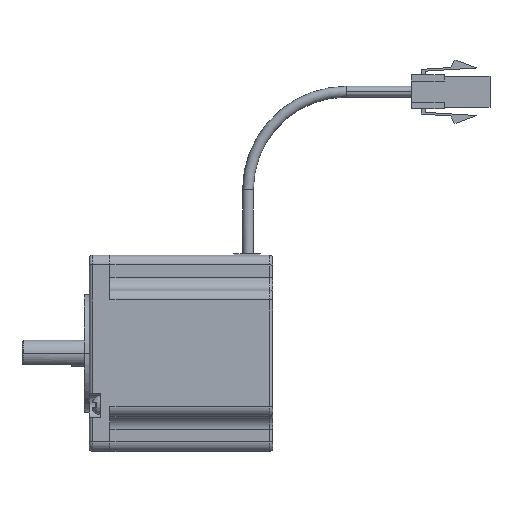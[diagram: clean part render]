
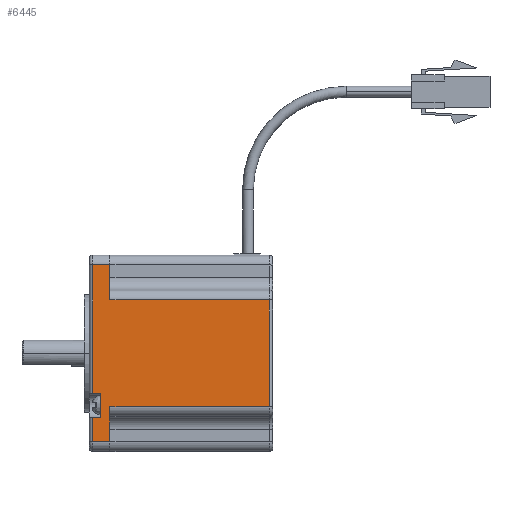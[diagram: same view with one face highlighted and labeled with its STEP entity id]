
A CAD part, top view. The second image highlights one B-rep face of the part: STEP entity #6445.
In plain terms, the highlighted planar face has unit normal (0, 0, 1) as drawn and (1, 0, 0) by its records, which use the part's own axes.
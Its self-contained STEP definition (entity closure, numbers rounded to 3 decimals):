
#124 = VECTOR ( 'NONE', #3071, 1000. ) ;
#129 = VECTOR ( 'NONE', #9084, 1000. ) ;
#282 = CARTESIAN_POINT ( 'NONE',  ( 92.176, 112.692, -205.7 ) ) ;
#423 = EDGE_CURVE ( 'NONE', #4236, #6005, #9193, .T. ) ;
#448 = ORIENTED_EDGE ( 'NONE', *, *, #7666, .T. ) ;
#715 = VECTOR ( 'NONE', #802, 1000. ) ;
#722 = DIRECTION ( 'NONE',  ( 0., 0., -1. ) ) ;
#789 = CARTESIAN_POINT ( 'NONE',  ( 92.176, 69.392, -205.7 ) ) ;
#800 = CARTESIAN_POINT ( 'NONE',  ( 92.176, 69.392, -157. ) ) ;
#802 = DIRECTION ( 'NONE',  ( 0., -1., 0. ) ) ;
#909 = CARTESIAN_POINT ( 'NONE',  ( 92.176, 55.692, -205.7 ) ) ;
#937 = CARTESIAN_POINT ( 'NONE',  ( 92.176, 112.692, -211. ) ) ;
#945 = VECTOR ( 'NONE', #2643, 1000. ) ;
#982 = LINE ( 'NONE', #3527, #5239 ) ;
#1021 = DIRECTION ( 'NONE',  ( 0., 0., -1. ) ) ;
#1081 = VERTEX_POINT ( 'NONE', #1447 ) ;
#1200 = CARTESIAN_POINT ( 'NONE',  ( 92.176, 97.892, -208.5 ) ) ;
#1405 = ORIENTED_EDGE ( 'NONE', *, *, #3659, .T. ) ;
#1447 = CARTESIAN_POINT ( 'NONE',  ( 92.176, 101.992, -157. ) ) ;
#1471 = VECTOR ( 'NONE', #5838, 1000. ) ;
#1484 = ORIENTED_EDGE ( 'NONE', *, *, #5190, .T. ) ;
#1664 = VERTEX_POINT ( 'NONE', #4769 ) ;
#1690 = LINE ( 'NONE', #3092, #124 ) ;
#1812 = LINE ( 'NONE', #2442, #5573 ) ;
#1946 = VERTEX_POINT ( 'NONE', #789 ) ;
#2119 = EDGE_CURVE ( 'NONE', #1946, #1664, #1690, .T. ) ;
#2257 = CARTESIAN_POINT ( 'NONE',  ( 92.176, 55.692, -212. ) ) ;
#2442 = CARTESIAN_POINT ( 'NONE',  ( 92.176, 55.692, -211. ) ) ;
#2643 = DIRECTION ( 'NONE',  ( 0., 0., 1. ) ) ;
#2676 = DIRECTION ( 'NONE',  ( 0., 1., 0. ) ) ;
#2694 = CARTESIAN_POINT ( 'NONE',  ( 92.176, 55.692, -208.5 ) ) ;
#3000 = LINE ( 'NONE', #7119, #945 ) ;
#3067 = AXIS2_PLACEMENT_3D ( 'NONE', #2257, #5259, #722 ) ;
#3071 = DIRECTION ( 'NONE',  ( 0., -1., 0. ) ) ;
#3092 = CARTESIAN_POINT ( 'NONE',  ( 92.176, 55.692, -205.7 ) ) ;
#3179 = DIRECTION ( 'NONE',  ( 0., -1., 0. ) ) ;
#3185 = DIRECTION ( 'NONE',  ( 0., 1., 0. ) ) ;
#3191 = CARTESIAN_POINT ( 'NONE',  ( 92.176, 55.692, -157. ) ) ;
#3295 = EDGE_CURVE ( 'NONE', #1664, #3941, #982, .T. ) ;
#3507 = LINE ( 'NONE', #5769, #1471 ) ;
#3527 = CARTESIAN_POINT ( 'NONE',  ( 92.176, 58.692, -212. ) ) ;
#3577 = DIRECTION ( 'NONE',  ( 0., 0., -1. ) ) ;
#3633 = VECTOR ( 'NONE', #3179, 1000. ) ;
#3659 = EDGE_CURVE ( 'NONE', #6760, #8081, #9350, .T. ) ;
#3690 = ORIENTED_EDGE ( 'NONE', *, *, #4698, .F. ) ;
#3711 = ORIENTED_EDGE ( 'NONE', *, *, #2119, .T. ) ;
#3714 = LINE ( 'NONE', #8504, #5432 ) ;
#3730 = VECTOR ( 'NONE', #6724, 1000. ) ;
#3740 = ORIENTED_EDGE ( 'NONE', *, *, #3295, .T. ) ;
#3791 = ORIENTED_EDGE ( 'NONE', *, *, #6988, .T. ) ;
#3854 = FACE_OUTER_BOUND ( 'NONE', #9378, .T. ) ;
#3941 = VERTEX_POINT ( 'NONE', #4135 ) ;
#3949 = LINE ( 'NONE', #9644, #129 ) ;
#4101 = LINE ( 'NONE', #8902, #6079 ) ;
#4135 = CARTESIAN_POINT ( 'NONE',  ( 92.176, 58.692, -211. ) ) ;
#4236 = VERTEX_POINT ( 'NONE', #1200 ) ;
#4246 = EDGE_CURVE ( 'NONE', #8477, #4978, #6968, .T. ) ;
#4360 = EDGE_CURVE ( 'NONE', #7998, #1946, #3949, .T. ) ;
#4373 = CARTESIAN_POINT ( 'NONE',  ( 92.176, 97.892, -211. ) ) ;
#4698 = EDGE_CURVE ( 'NONE', #1081, #4978, #4101, .T. ) ;
#4769 = CARTESIAN_POINT ( 'NONE',  ( 92.176, 58.692, -205.7 ) ) ;
#4843 = ORIENTED_EDGE ( 'NONE', *, *, #423, .T. ) ;
#4978 = VERTEX_POINT ( 'NONE', #5725 ) ;
#4986 = EDGE_CURVE ( 'NONE', #6343, #4236, #3507, .T. ) ;
#5190 = EDGE_CURVE ( 'NONE', #1081, #7998, #5341, .T. ) ;
#5239 = VECTOR ( 'NONE', #3577, 1000. ) ;
#5259 = DIRECTION ( 'NONE',  ( 1., 0., 0. ) ) ;
#5341 = LINE ( 'NONE', #3191, #3633 ) ;
#5432 = VECTOR ( 'NONE', #1021, 1000. ) ;
#5573 = VECTOR ( 'NONE', #3185, 1000. ) ;
#5725 = CARTESIAN_POINT ( 'NONE',  ( 92.176, 101.992, -205.7 ) ) ;
#5769 = CARTESIAN_POINT ( 'NONE',  ( 92.176, 97.892, -212. ) ) ;
#5809 = ORIENTED_EDGE ( 'NONE', *, *, #4360, .T. ) ;
#5838 = DIRECTION ( 'NONE',  ( 0., 0., 1. ) ) ;
#6005 = VERTEX_POINT ( 'NONE', #6249 ) ;
#6079 = VECTOR ( 'NONE', #8879, 1000. ) ;
#6249 = CARTESIAN_POINT ( 'NONE',  ( 92.176, 105.292, -208.5 ) ) ;
#6343 = VERTEX_POINT ( 'NONE', #4373 ) ;
#6445 = ADVANCED_FACE ( 'NONE', ( #3854 ), #9630, .T. ) ;
#6446 = CARTESIAN_POINT ( 'NONE',  ( 92.176, 105.292, -211. ) ) ;
#6724 = DIRECTION ( 'NONE',  ( 0., 1., 0. ) ) ;
#6736 = CARTESIAN_POINT ( 'NONE',  ( 92.176, 55.692, -211. ) ) ;
#6760 = VERTEX_POINT ( 'NONE', #6446 ) ;
#6968 = LINE ( 'NONE', #909, #715 ) ;
#6988 = EDGE_CURVE ( 'NONE', #3941, #6343, #1812, .T. ) ;
#7119 = CARTESIAN_POINT ( 'NONE',  ( 92.176, 112.692, -212. ) ) ;
#7522 = VECTOR ( 'NONE', #2676, 1000. ) ;
#7560 = ORIENTED_EDGE ( 'NONE', *, *, #4986, .T. ) ;
#7666 = EDGE_CURVE ( 'NONE', #6005, #6760, #3714, .T. ) ;
#7735 = EDGE_CURVE ( 'NONE', #8081, #8477, #3000, .T. ) ;
#7998 = VERTEX_POINT ( 'NONE', #800 ) ;
#8081 = VERTEX_POINT ( 'NONE', #937 ) ;
#8477 = VERTEX_POINT ( 'NONE', #282 ) ;
#8504 = CARTESIAN_POINT ( 'NONE',  ( 92.176, 105.292, -212. ) ) ;
#8840 = ORIENTED_EDGE ( 'NONE', *, *, #7735, .T. ) ;
#8879 = DIRECTION ( 'NONE',  ( 0., 0., -1. ) ) ;
#8902 = CARTESIAN_POINT ( 'NONE',  ( 92.176, 101.992, -212. ) ) ;
#8995 = ORIENTED_EDGE ( 'NONE', *, *, #4246, .T. ) ;
#9084 = DIRECTION ( 'NONE',  ( 0., 0., -1. ) ) ;
#9193 = LINE ( 'NONE', #2694, #7522 ) ;
#9350 = LINE ( 'NONE', #6736, #3730 ) ;
#9378 = EDGE_LOOP ( 'NONE', ( #3690, #1484, #5809, #3711, #3740, #3791, #7560, #4843, #448, #1405, #8840, #8995 ) ) ;
#9630 = PLANE ( 'NONE',  #3067 ) ;
#9644 = CARTESIAN_POINT ( 'NONE',  ( 92.176, 69.392, -212. ) ) ;
